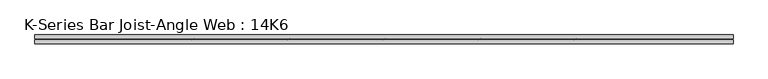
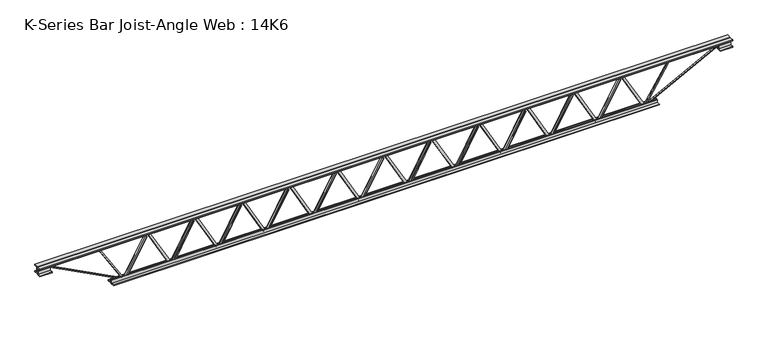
"""IFC4 building model written with IfcOpenShell, lengths in millimetres: beam geometry, K-Series Bar Joist-Angle Web : 14K6."""

from ifc_helpers import new_model, si_unit, frame, origin, place, context, project, spatial, polyline, outline, extrude, faceted_brep, source, transform, mapped, element, save


def k_series_bar_joist_angle_web_14k6_a55206d5(model_context):
    return source(origin(), model_context, "Body", "SolidModel", [
        extrude(outline(polyline([(-4.7625, 4.7625), (-4.7625, 0.0), (-17.4625, 0.0), (-17.4625, 4.7625), (-4.7625, 4.7625)])), frame((1736.3712991, 0.0, -139.7), z_axis=(-0.48619410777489, 0.0, 0.8738508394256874), x_axis=(0.0, -1.0, 0.0)), (0.0, 0.0, 1.0), 319.7342011),
        extrude(outline(polyline([(-174.625, 1767.7534091), (-155.575, 1767.7534091), (-155.575, 1767.0039085), (174.625, 1583.2868631), (174.625, 1564.9863636), (155.575, 1564.9863636), (155.575, 1572.0858642), (-174.625, 1755.8029097), (-174.625, 1767.7534091)])), frame((0.0, 0.0, 0.0), z_axis=(0.0, 1.0, 0.0), x_axis=(0.0, 0.0, 1.0)), (0.0, 0.0, 1.0), 4.7625),
        faceted_brep([(1374.9193182, 0.0, -155.575), (1374.9193182, 0.0, -174.625), (1374.9193182, -4.7625, -174.625), (1374.9193182, -4.7625, -155.575), (1375.6688188, 0.0, -155.575), (1559.3858642, 0.0, 174.625), (1577.6863636, 0.0, 174.625), (1577.6863636, 0.0, 155.575), (1570.5868631, 0.0, 155.575), (1386.8698176, 0.0, -174.625), (1386.8698176, -4.7625, -174.625), (1406.3014282, -4.7625, -139.7), (1402.1397136, -4.7625, -137.3845006), (1557.5925982, -4.7625, 142.0154994), (1561.7543128, -4.7625, 139.7), (1570.5868631, -4.7625, 155.575), (1577.6863636, -4.7625, 155.575), (1577.6863636, -4.7625, 174.625), (1559.3858642, -4.7625, 174.625), (1375.6688188, -4.7625, -155.575), (1561.7543128, -17.4625, 139.7), (1406.3014282, -17.4625, -139.7), (1402.1397136, -17.4625, -137.3845006), (1557.5925982, -17.4625, 142.0154994)], [[[0, 1, 2, 3]], [[1, 0, 4, 5, 6, 7, 8, 9]], [[2, 1, 9, 10]], [[3, 2, 10, 11, 12, 13, 14, 15, 16, 17, 18, 19]], [[0, 3, 19, 4]], [[9, 8, 15, 14, 20, 21, 11, 10]], [[5, 4, 19, 18]], [[7, 6, 17, 16]], [[8, 7, 16, 15]], [[6, 5, 18, 17]], [[21, 22, 12, 11]], [[20, 14, 13, 23]], [[22, 21, 20, 23]], [[12, 22, 23, 13]]]),
        extrude(outline(polyline([(-4.7625, 4.7625), (-4.7625, 0.0), (-17.4625, 0.0), (-17.4625, 4.7625), (-4.7625, 4.7625)])), frame((1343.5372082, 0.0, -139.7), z_axis=(-0.48619410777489, 0.0, 0.8738508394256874), x_axis=(0.0, -1.0, 0.0)), (0.0, 0.0, 1.0), 319.7342011),
        extrude(outline(polyline([(-174.625, 1374.9193182), (-155.575, 1374.9193182), (-155.575, 1374.1698176), (174.625, 1190.4527722), (174.625, 1172.1522727), (155.575, 1172.1522727), (155.575, 1179.2517733), (-174.625, 1362.9688188), (-174.625, 1374.9193182)])), frame((0.0, 0.0, 0.0), z_axis=(0.0, 1.0, 0.0), x_axis=(0.0, 0.0, 1.0)), (0.0, 0.0, 1.0), 4.7625),
        faceted_brep([(982.0852273, 0.0, -155.575), (982.0852273, 0.0, -174.625), (982.0852273, -4.7625, -174.625), (982.0852273, -4.7625, -155.575), (982.8347278, 0.0, -155.575), (1166.5517733, 0.0, 174.625), (1184.8522727, 0.0, 174.625), (1184.8522727, 0.0, 155.575), (1177.7527722, 0.0, 155.575), (994.0357267, 0.0, -174.625), (994.0357267, -4.7625, -174.625), (1013.4673373, -4.7625, -139.7), (1009.3056227, -4.7625, -137.3845006), (1164.7585073, -4.7625, 142.0154994), (1168.9202219, -4.7625, 139.7), (1177.7527722, -4.7625, 155.575), (1184.8522727, -4.7625, 155.575), (1184.8522727, -4.7625, 174.625), (1166.5517733, -4.7625, 174.625), (982.8347278, -4.7625, -155.575), (1168.9202219, -17.4625, 139.7), (1013.4673373, -17.4625, -139.7), (1009.3056227, -17.4625, -137.3845006), (1164.7585073, -17.4625, 142.0154994)], [[[0, 1, 2, 3]], [[1, 0, 4, 5, 6, 7, 8, 9]], [[2, 1, 9, 10]], [[3, 2, 10, 11, 12, 13, 14, 15, 16, 17, 18, 19]], [[0, 3, 19, 4]], [[9, 8, 15, 14, 20, 21, 11, 10]], [[5, 4, 19, 18]], [[7, 6, 17, 16]], [[8, 7, 16, 15]], [[6, 5, 18, 17]], [[21, 22, 12, 11]], [[20, 14, 13, 23]], [[22, 21, 20, 23]], [[12, 22, 23, 13]]]),
        extrude(outline(polyline([(-4.7625, 4.7625), (-4.7625, 0.0), (-17.4625, 0.0), (-17.4625, 4.7625), (-4.7625, 4.7625)])), frame((950.7031173, 0.0, -139.7), z_axis=(-0.48619410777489, 0.0, 0.8738508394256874), x_axis=(0.0, -1.0, 0.0)), (0.0, 0.0, 1.0), 319.7342011),
        extrude(outline(polyline([(-174.625, 982.0852273), (-155.575, 982.0852273), (-155.575, 981.3357267), (174.625, 797.6186812), (174.625, 779.3181818), (155.575, 779.3181818), (155.575, 786.4176824), (-174.625, 970.1347278), (-174.625, 982.0852273)])), frame((0.0, 0.0, 0.0), z_axis=(0.0, 1.0, 0.0), x_axis=(0.0, 0.0, 1.0)), (0.0, 0.0, 1.0), 4.7625),
        faceted_brep([(589.2511364, 0.0, -155.575), (589.2511364, 0.0, -174.625), (589.2511364, -4.7625, -174.625), (589.2511364, -4.7625, -155.575), (590.0006369, 0.0, -155.575), (773.7176824, 0.0, 174.625), (792.0181818, 0.0, 174.625), (792.0181818, 0.0, 155.575), (784.9186812, 0.0, 155.575), (601.2016358, 0.0, -174.625), (601.2016358, -4.7625, -174.625), (620.6332464, -4.7625, -139.7), (616.4715317, -4.7625, -137.3845006), (771.9244164, -4.7625, 142.0154994), (776.086131, -4.7625, 139.7), (784.9186812, -4.7625, 155.575), (792.0181818, -4.7625, 155.575), (792.0181818, -4.7625, 174.625), (773.7176824, -4.7625, 174.625), (590.0006369, -4.7625, -155.575), (776.086131, -17.4625, 139.7), (620.6332464, -17.4625, -139.7), (616.4715317, -17.4625, -137.3845006), (771.9244164, -17.4625, 142.0154994)], [[[0, 1, 2, 3]], [[1, 0, 4, 5, 6, 7, 8, 9]], [[2, 1, 9, 10]], [[3, 2, 10, 11, 12, 13, 14, 15, 16, 17, 18, 19]], [[0, 3, 19, 4]], [[9, 8, 15, 14, 20, 21, 11, 10]], [[5, 4, 19, 18]], [[7, 6, 17, 16]], [[8, 7, 16, 15]], [[6, 5, 18, 17]], [[21, 22, 12, 11]], [[20, 14, 13, 23]], [[22, 21, 20, 23]], [[12, 22, 23, 13]]]),
        extrude(outline(polyline([(-4.7625, 4.7625), (-4.7625, 0.0), (-17.4625, 0.0), (-17.4625, 4.7625), (-4.7625, 4.7625)])), frame((557.8690264, 0.0, -139.7), z_axis=(-0.48619410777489, 0.0, 0.8738508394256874), x_axis=(0.0, -1.0, 0.0)), (0.0, 0.0, 1.0), 319.7342011),
        extrude(outline(polyline([(-174.625, 589.2511364), (-155.575, 589.2511364), (-155.575, 588.5016358), (174.625, 404.7845903), (174.625, 386.4840909), (155.575, 386.4840909), (155.575, 393.5835915), (-174.625, 577.3006369), (-174.625, 589.2511364)])), frame((0.0, 0.0, 0.0), z_axis=(0.0, 1.0, 0.0), x_axis=(0.0, 0.0, 1.0)), (0.0, 0.0, 1.0), 4.7625),
        faceted_brep([(196.4170455, 0.0, -155.575), (196.4170455, 0.0, -174.625), (196.4170455, -4.7625, -174.625), (196.4170455, -4.7625, -155.575), (197.166546, 0.0, -155.575), (380.8835915, 0.0, 174.625), (399.1840909, 0.0, 174.625), (399.1840909, 0.0, 155.575), (392.0845903, 0.0, 155.575), (208.3675449, 0.0, -174.625), (208.3675449, -4.7625, -174.625), (227.7991555, -4.7625, -139.7), (223.6374408, -4.7625, -137.3845006), (379.0903254, -4.7625, 142.0154994), (383.2520401, -4.7625, 139.7), (392.0845903, -4.7625, 155.575), (399.1840909, -4.7625, 155.575), (399.1840909, -4.7625, 174.625), (380.8835915, -4.7625, 174.625), (197.166546, -4.7625, -155.575), (383.2520401, -17.4625, 139.7), (227.7991555, -17.4625, -139.7), (223.6374408, -17.4625, -137.3845006), (379.0903254, -17.4625, 142.0154994)], [[[0, 1, 2, 3]], [[1, 0, 4, 5, 6, 7, 8, 9]], [[2, 1, 9, 10]], [[3, 2, 10, 11, 12, 13, 14, 15, 16, 17, 18, 19]], [[0, 3, 19, 4]], [[9, 8, 15, 14, 20, 21, 11, 10]], [[5, 4, 19, 18]], [[7, 6, 17, 16]], [[8, 7, 16, 15]], [[6, 5, 18, 17]], [[21, 22, 12, 11]], [[20, 14, 13, 23]], [[22, 21, 20, 23]], [[12, 22, 23, 13]]]),
        extrude(outline(polyline([(-4.7625, 4.7625), (-4.7625, 0.0), (-17.4625, 0.0), (-17.4625, 4.7625), (-4.7625, 4.7625)])), frame((165.0349355, 0.0, -139.7), z_axis=(-0.48619410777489, 0.0, 0.8738508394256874), x_axis=(0.0, -1.0, 0.0)), (0.0, 0.0, 1.0), 319.7342011),
        extrude(outline(polyline([(-174.625, 196.4170455), (-155.575, 196.4170455), (-155.575, 195.6675449), (174.625, 11.9504994), (174.625, -6.35), (155.575, -6.35), (155.575, 0.7495006), (-174.625, 184.466546), (-174.625, 196.4170455)])), frame((0.0, 0.0, 0.0), z_axis=(0.0, 1.0, 0.0), x_axis=(0.0, 0.0, 1.0)), (0.0, 0.0, 1.0), 4.7625),
        faceted_brep([(-196.4170455, 0.0, -155.575), (-196.4170455, 0.0, -174.625), (-196.4170455, -4.7625, -174.625), (-196.4170455, -4.7625, -155.575), (-195.6675449, 0.0, -155.575), (-11.9504994, 0.0, 174.625), (6.35, 0.0, 174.625), (6.35, 0.0, 155.575), (-0.7495006, 0.0, 155.575), (-184.466546, 0.0, -174.625), (-184.466546, -4.7625, -174.625), (-165.0349355, -4.7625, -139.7), (-169.1966501, -4.7625, -137.3845006), (-13.7437655, -4.7625, 142.0154994), (-9.5820508, -4.7625, 139.7), (-0.7495006, -4.7625, 155.575), (6.35, -4.7625, 155.575), (6.35, -4.7625, 174.625), (-11.9504994, -4.7625, 174.625), (-195.6675449, -4.7625, -155.575), (-9.5820508, -17.4625, 139.7), (-165.0349355, -17.4625, -139.7), (-169.1966501, -17.4625, -137.3845006), (-13.7437655, -17.4625, 142.0154994)], [[[0, 1, 2, 3]], [[1, 0, 4, 5, 6, 7, 8, 9]], [[2, 1, 9, 10]], [[3, 2, 10, 11, 12, 13, 14, 15, 16, 17, 18, 19]], [[0, 3, 19, 4]], [[9, 8, 15, 14, 20, 21, 11, 10]], [[5, 4, 19, 18]], [[7, 6, 17, 16]], [[8, 7, 16, 15]], [[6, 5, 18, 17]], [[21, 22, 12, 11]], [[20, 14, 13, 23]], [[22, 21, 20, 23]], [[12, 22, 23, 13]]]),
        extrude(outline(polyline([(-4.7625, 4.7625), (-4.7625, 0.0), (-17.4625, 0.0), (-17.4625, 4.7625), (-4.7625, 4.7625)])), frame((-227.7991555, 0.0, -139.7), z_axis=(-0.48619410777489, 0.0, 0.8738508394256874), x_axis=(0.0, -1.0, 0.0)), (0.0, 0.0, 1.0), 319.7342011),
        extrude(outline(polyline([(-174.625, -196.4170455), (-155.575, -196.4170455), (-155.575, -197.166546), (174.625, -380.8835915), (174.625, -399.1840909), (155.575, -399.1840909), (155.575, -392.0845903), (-174.625, -208.3675449), (-174.625, -196.4170455)])), frame((0.0, 0.0, 0.0), z_axis=(0.0, 1.0, 0.0), x_axis=(0.0, 0.0, 1.0)), (0.0, 0.0, 1.0), 4.7625),
        faceted_brep([(-589.2511364, 0.0, -155.575), (-589.2511364, 0.0, -174.625), (-589.2511364, -4.7625, -174.625), (-589.2511364, -4.7625, -155.575), (-588.5016358, 0.0, -155.575), (-404.7845903, 0.0, 174.625), (-386.4840909, 0.0, 174.625), (-386.4840909, 0.0, 155.575), (-393.5835915, 0.0, 155.575), (-577.3006369, 0.0, -174.625), (-577.3006369, -4.7625, -174.625), (-557.8690264, -4.7625, -139.7), (-562.030741, -4.7625, -137.3845006), (-406.5778564, -4.7625, 142.0154994), (-402.4161417, -4.7625, 139.7), (-393.5835915, -4.7625, 155.575), (-386.4840909, -4.7625, 155.575), (-386.4840909, -4.7625, 174.625), (-404.7845903, -4.7625, 174.625), (-588.5016358, -4.7625, -155.575), (-402.4161417, -17.4625, 139.7), (-557.8690264, -17.4625, -139.7), (-562.030741, -17.4625, -137.3845006), (-406.5778564, -17.4625, 142.0154994)], [[[0, 1, 2, 3]], [[1, 0, 4, 5, 6, 7, 8, 9]], [[2, 1, 9, 10]], [[3, 2, 10, 11, 12, 13, 14, 15, 16, 17, 18, 19]], [[0, 3, 19, 4]], [[9, 8, 15, 14, 20, 21, 11, 10]], [[5, 4, 19, 18]], [[7, 6, 17, 16]], [[8, 7, 16, 15]], [[6, 5, 18, 17]], [[21, 22, 12, 11]], [[20, 14, 13, 23]], [[22, 21, 20, 23]], [[12, 22, 23, 13]]]),
        extrude(outline(polyline([(-4.7625, 4.7625), (-4.7625, 0.0), (-17.4625, 0.0), (-17.4625, 4.7625), (-4.7625, 4.7625)])), frame((-620.6332464, 0.0, -139.7), z_axis=(-0.48619410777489, 0.0, 0.8738508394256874), x_axis=(0.0, -1.0, 0.0)), (0.0, 0.0, 1.0), 319.7342011),
        extrude(outline(polyline([(-174.625, -589.2511364), (-155.575, -589.2511364), (-155.575, -590.0006369), (174.625, -773.7176824), (174.625, -792.0181818), (155.575, -792.0181818), (155.575, -784.9186812), (-174.625, -601.2016358), (-174.625, -589.2511364)])), frame((0.0, 0.0, 0.0), z_axis=(0.0, 1.0, 0.0), x_axis=(0.0, 0.0, 1.0)), (0.0, 0.0, 1.0), 4.7625),
        faceted_brep([(-982.0852273, 0.0, -155.575), (-982.0852273, 0.0, -174.625), (-982.0852273, -4.7625, -174.625), (-982.0852273, -4.7625, -155.575), (-981.3357267, 0.0, -155.575), (-797.6186812, 0.0, 174.625), (-779.3181818, 0.0, 174.625), (-779.3181818, 0.0, 155.575), (-786.4176824, 0.0, 155.575), (-970.1347278, 0.0, -174.625), (-970.1347278, -4.7625, -174.625), (-950.7031173, -4.7625, -139.7), (-954.8648319, -4.7625, -137.3845006), (-799.4119473, -4.7625, 142.0154994), (-795.2502327, -4.7625, 139.7), (-786.4176824, -4.7625, 155.575), (-779.3181818, -4.7625, 155.575), (-779.3181818, -4.7625, 174.625), (-797.6186812, -4.7625, 174.625), (-981.3357267, -4.7625, -155.575), (-795.2502327, -17.4625, 139.7), (-950.7031173, -17.4625, -139.7), (-954.8648319, -17.4625, -137.3845006), (-799.4119473, -17.4625, 142.0154994)], [[[0, 1, 2, 3]], [[1, 0, 4, 5, 6, 7, 8, 9]], [[2, 1, 9, 10]], [[3, 2, 10, 11, 12, 13, 14, 15, 16, 17, 18, 19]], [[0, 3, 19, 4]], [[9, 8, 15, 14, 20, 21, 11, 10]], [[5, 4, 19, 18]], [[7, 6, 17, 16]], [[8, 7, 16, 15]], [[6, 5, 18, 17]], [[21, 22, 12, 11]], [[20, 14, 13, 23]], [[22, 21, 20, 23]], [[12, 22, 23, 13]]]),
        extrude(outline(polyline([(-4.7625, 4.7625), (-4.7625, 0.0), (-17.4625, 0.0), (-17.4625, 4.7625), (-4.7625, 4.7625)])), frame((-1013.4673373, 0.0, -139.7), z_axis=(-0.48619410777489, 0.0, 0.8738508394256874), x_axis=(0.0, -1.0, 0.0)), (0.0, 0.0, 1.0), 319.7342011),
        extrude(outline(polyline([(-174.625, -982.0852273), (-155.575, -982.0852273), (-155.575, -982.8347278), (174.625, -1166.5517733), (174.625, -1184.8522727), (155.575, -1184.8522727), (155.575, -1177.7527722), (-174.625, -994.0357267), (-174.625, -982.0852273)])), frame((0.0, 0.0, 0.0), z_axis=(0.0, 1.0, 0.0), x_axis=(0.0, 0.0, 1.0)), (0.0, 0.0, 1.0), 4.7625),
        faceted_brep([(-1374.9193182, 0.0, -155.575), (-1374.9193182, 0.0, -174.625), (-1374.9193182, -4.7625, -174.625), (-1374.9193182, -4.7625, -155.575), (-1374.1698176, 0.0, -155.575), (-1190.4527722, 0.0, 174.625), (-1172.1522727, 0.0, 174.625), (-1172.1522727, 0.0, 155.575), (-1179.2517733, 0.0, 155.575), (-1362.9688188, 0.0, -174.625), (-1362.9688188, -4.7625, -174.625), (-1343.5372082, -4.7625, -139.7), (-1347.6989228, -4.7625, -137.3845006), (-1192.2460382, -4.7625, 142.0154994), (-1188.0843236, -4.7625, 139.7), (-1179.2517733, -4.7625, 155.575), (-1172.1522727, -4.7625, 155.575), (-1172.1522727, -4.7625, 174.625), (-1190.4527722, -4.7625, 174.625), (-1374.1698176, -4.7625, -155.575), (-1188.0843236, -17.4625, 139.7), (-1343.5372082, -17.4625, -139.7), (-1347.6989228, -17.4625, -137.3845006), (-1192.2460382, -17.4625, 142.0154994)], [[[0, 1, 2, 3]], [[1, 0, 4, 5, 6, 7, 8, 9]], [[2, 1, 9, 10]], [[3, 2, 10, 11, 12, 13, 14, 15, 16, 17, 18, 19]], [[0, 3, 19, 4]], [[9, 8, 15, 14, 20, 21, 11, 10]], [[5, 4, 19, 18]], [[7, 6, 17, 16]], [[8, 7, 16, 15]], [[6, 5, 18, 17]], [[21, 22, 12, 11]], [[20, 14, 13, 23]], [[22, 21, 20, 23]], [[12, 22, 23, 13]]]),
        extrude(outline(polyline([(-4.7625, 4.7625), (-4.7625, 0.0), (-17.4625, 0.0), (-17.4625, 4.7625), (-4.7625, 4.7625)])), frame((-1406.3014282, 0.0, -139.7), z_axis=(-0.48619410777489, 0.0, 0.8738508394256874), x_axis=(0.0, -1.0, 0.0)), (0.0, 0.0, 1.0), 319.7342011),
        extrude(outline(polyline([(-174.625, -1374.9193182), (-155.575, -1374.9193182), (-155.575, -1375.6688188), (174.625, -1559.3858642), (174.625, -1577.6863636), (155.575, -1577.6863636), (155.575, -1570.5868631), (-174.625, -1386.8698176), (-174.625, -1374.9193182)])), frame((0.0, 0.0, 0.0), z_axis=(0.0, 1.0, 0.0), x_axis=(0.0, 0.0, 1.0)), (0.0, 0.0, 1.0), 4.7625),
        faceted_brep([(-1767.7534091, 0.0, -155.575), (-1767.7534091, 0.0, -174.625), (-1767.7534091, -4.7625, -174.625), (-1767.7534091, -4.7625, -155.575), (-1767.0039085, 0.0, -155.575), (-1583.2868631, 0.0, 174.625), (-1564.9863636, 0.0, 174.625), (-1564.9863636, 0.0, 155.575), (-1572.0858642, 0.0, 155.575), (-1755.8029097, 0.0, -174.625), (-1755.8029097, -4.7625, -174.625), (-1736.3712991, -4.7625, -139.7), (-1740.5330137, -4.7625, -137.3845006), (-1585.0801291, -4.7625, 142.0154994), (-1580.9184145, -4.7625, 139.7), (-1572.0858642, -4.7625, 155.575), (-1564.9863636, -4.7625, 155.575), (-1564.9863636, -4.7625, 174.625), (-1583.2868631, -4.7625, 174.625), (-1767.0039085, -4.7625, -155.575), (-1580.9184145, -17.4625, 139.7), (-1736.3712991, -17.4625, -139.7), (-1740.5330137, -17.4625, -137.3845006), (-1585.0801291, -17.4625, 142.0154994)], [[[0, 1, 2, 3]], [[1, 0, 4, 5, 6, 7, 8, 9]], [[2, 1, 9, 10]], [[3, 2, 10, 11, 12, 13, 14, 15, 16, 17, 18, 19]], [[0, 3, 19, 4]], [[9, 8, 15, 14, 20, 21, 11, 10]], [[5, 4, 19, 18]], [[7, 6, 17, 16]], [[8, 7, 16, 15]], [[6, 5, 18, 17]], [[21, 22, 12, 11]], [[20, 14, 13, 23]], [[22, 21, 20, 23]], [[12, 22, 23, 13]]]),
        extrude(outline(polyline([(-4.7625, 4.7625), (-4.7625, 0.0), (-17.4625, 0.0), (-17.4625, 4.7625), (-4.7625, 4.7625)])), frame((2129.20539, 0.0, -139.7), z_axis=(-0.48619410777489, 0.0, 0.8738508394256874), x_axis=(0.0, -1.0, 0.0)), (0.0, 0.0, 1.0), 319.7342011),
        extrude(outline(polyline([(-174.625, 2160.5875), (-155.575, 2160.5875), (-155.575, 2159.8379994), (174.625, 1976.120954), (174.625, 1957.8204545), (155.575, 1957.8204545), (155.575, 1964.9199551), (-174.625, 2148.6370006), (-174.625, 2160.5875)])), frame((0.0, 0.0, 0.0), z_axis=(0.0, 1.0, 0.0), x_axis=(0.0, 0.0, 1.0)), (0.0, 0.0, 1.0), 4.7625),
        faceted_brep([(1767.7534091, 0.0, -155.575), (1767.7534091, 0.0, -174.625), (1767.7534091, -4.7625, -174.625), (1767.7534091, -4.7625, -155.575), (1768.5029097, 0.0, -155.575), (1952.2199551, 0.0, 174.625), (1970.5204545, 0.0, 174.625), (1970.5204545, 0.0, 155.575), (1963.420954, 0.0, 155.575), (1779.7039085, 0.0, -174.625), (1779.7039085, -4.7625, -174.625), (1799.1355191, -4.7625, -139.7), (1794.9738045, -4.7625, -137.3845006), (1950.4266891, -4.7625, 142.0154994), (1954.5884037, -4.7625, 139.7), (1963.420954, -4.7625, 155.575), (1970.5204545, -4.7625, 155.575), (1970.5204545, -4.7625, 174.625), (1952.2199551, -4.7625, 174.625), (1768.5029097, -4.7625, -155.575), (1954.5884037, -17.4625, 139.7), (1799.1355191, -17.4625, -139.7), (1794.9738045, -17.4625, -137.3845006), (1950.4266891, -17.4625, 142.0154994)], [[[0, 1, 2, 3]], [[1, 0, 4, 5, 6, 7, 8, 9]], [[2, 1, 9, 10]], [[3, 2, 10, 11, 12, 13, 14, 15, 16, 17, 18, 19]], [[0, 3, 19, 4]], [[9, 8, 15, 14, 20, 21, 11, 10]], [[5, 4, 19, 18]], [[7, 6, 17, 16]], [[8, 7, 16, 15]], [[6, 5, 18, 17]], [[21, 22, 12, 11]], [[20, 14, 13, 23]], [[22, 21, 20, 23]], [[12, 22, 23, 13]]]),
        extrude(outline(polyline([(-4.7625, 4.7625), (-4.7625, 0.0), (-17.4625, 0.0), (-17.4625, 4.7625), (-4.7625, 4.7625)])), frame((-1799.1355191, 0.0, -139.7), z_axis=(-0.48619410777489, 0.0, 0.8738508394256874), x_axis=(0.0, -1.0, 0.0)), (0.0, 0.0, 1.0), 319.7342011),
        extrude(outline(polyline([(-174.625, -1767.7534091), (-155.575, -1767.7534091), (-155.575, -1768.5029097), (174.625, -1952.2199551), (174.625, -1970.5204545), (155.575, -1970.5204545), (155.575, -1963.420954), (-174.625, -1779.7039085), (-174.625, -1767.7534091)])), frame((0.0, 0.0, 0.0), z_axis=(0.0, 1.0, 0.0), x_axis=(0.0, 0.0, 1.0)), (0.0, 0.0, 1.0), 4.7625),
        faceted_brep([(-2160.5875, 0.0, -155.575), (-2160.5875, 0.0, -174.625), (-2160.5875, -4.7625, -174.625), (-2160.5875, -4.7625, -155.575), (-2159.8379994, 0.0, -155.575), (-1976.120954, 0.0, 174.625), (-1957.8204545, 0.0, 174.625), (-1957.8204545, 0.0, 155.575), (-1964.9199551, 0.0, 155.575), (-2148.6370006, 0.0, -174.625), (-2148.6370006, -4.7625, -174.625), (-2129.20539, -4.7625, -139.7), (-2133.3671046, -4.7625, -137.3845006), (-1977.91422, -4.7625, 142.0154994), (-1973.7525054, -4.7625, 139.7), (-1964.9199551, -4.7625, 155.575), (-1957.8204545, -4.7625, 155.575), (-1957.8204545, -4.7625, 174.625), (-1976.120954, -4.7625, 174.625), (-2159.8379994, -4.7625, -155.575), (-1973.7525054, -17.4625, 139.7), (-2129.20539, -17.4625, -139.7), (-2133.3671046, -17.4625, -137.3845006), (-1977.91422, -17.4625, 142.0154994)], [[[0, 1, 2, 3]], [[1, 0, 4, 5, 6, 7, 8, 9]], [[2, 1, 9, 10]], [[3, 2, 10, 11, 12, 13, 14, 15, 16, 17, 18, 19]], [[0, 3, 19, 4]], [[9, 8, 15, 14, 20, 21, 11, 10]], [[5, 4, 19, 18]], [[7, 6, 17, 16]], [[8, 7, 16, 15]], [[6, 5, 18, 17]], [[21, 22, 12, 11]], [[20, 14, 13, 23]], [[22, 21, 20, 23]], [[12, 22, 23, 13]]]),
        extrude(outline(polyline([(4.7625, 177.8), (36.5125, 177.8), (36.5125, 171.45), (11.1125, 171.45), (11.1125, 146.05), (4.7625, 146.05), (4.7625, 177.8)])), frame((-2871.7875, 0.0, 0.0), z_axis=(1.0, 0.0, 0.0), x_axis=(0.0, 1.0, 0.0)), (0.0, 0.0, 1.0), 5743.575),
        extrude(outline(polyline([(-4.7625, 177.8), (-4.7625, 146.05), (-11.1125, 146.05), (-11.1125, 171.45), (-36.5125, 171.45), (-36.5125, 177.8), (-4.7625, 177.8)])), frame((-2871.7875, 0.0, 0.0), z_axis=(1.0, 0.0, 0.0), x_axis=(0.0, 1.0, 0.0)), (0.0, 0.0, 1.0), 5743.575),
        extrude(outline(polyline([(4.7625, -177.8), (4.7625, -146.05), (11.1125, -146.05), (11.1125, -171.45), (36.5125, -171.45), (36.5125, -177.8), (4.7625, -177.8)])), frame((-2262.1875, 0.0, 0.0), z_axis=(1.0, 0.0, 0.0), x_axis=(0.0, 1.0, 0.0)), (0.0, 0.0, 1.0), 4524.375),
        extrude(outline(polyline([(-4.7625, -177.8), (-36.5125, -177.8), (-36.5125, -171.45), (-11.1125, -171.45), (-11.1125, -146.05), (-4.7625, -146.05), (-4.7625, -177.8)])), frame((-2262.1875, 0.0, 0.0), z_axis=(1.0, 0.0, 0.0), x_axis=(0.0, 1.0, 0.0)), (0.0, 0.0, 1.0), 4524.375),
        extrude(outline(polyline([(4.7625, 114.3), (4.7625, 146.05), (11.1125, 146.05), (11.1125, 120.65), (36.5125, 120.65), (36.5125, 114.3), (4.7625, 114.3)])), frame((2770.1875, 0.0, 0.0), z_axis=(1.0, 0.0, 0.0), x_axis=(0.0, 1.0, 0.0)), (0.0, 0.0, 1.0), 101.6),
        extrude(outline(polyline([(-4.7625, 114.3), (-36.5125, 114.3), (-36.5125, 120.65), (-11.1125, 120.65), (-11.1125, 146.05), (-4.7625, 146.05), (-4.7625, 114.3)])), frame((2770.1875, 0.0, 0.0), z_axis=(1.0, 0.0, 0.0), x_axis=(0.0, 1.0, 0.0)), (0.0, 0.0, 1.0), 101.6),
        extrude(outline(polyline([(-4.7625, 114.3), (-36.5125, 114.3), (-36.5125, 120.65), (-11.1125, 120.65), (-11.1125, 146.05), (-4.7625, 146.05), (-4.7625, 114.3)])), frame((-2871.7875, 0.0, 0.0), z_axis=(1.0, 0.0, 0.0), x_axis=(0.0, 1.0, 0.0)), (0.0, 0.0, 1.0), 101.6),
        extrude(outline(polyline([(36.5125, 114.3), (4.7625, 114.3), (4.7625, 146.05), (11.1125, 146.05), (11.1125, 120.65), (36.5125, 120.65), (36.5125, 114.3)])), frame((-2871.7875, 0.0, 0.0), z_axis=(1.0, 0.0, 0.0), x_axis=(0.0, 1.0, 0.0)), (0.0, 0.0, 1.0), 101.6),
        extrude(outline(polyline([(4.7625, 4.7625), (4.7625, -4.7625), (-4.7625, -4.7625), (-4.7625, 4.7625), (4.7625, 4.7625)])), frame((-2160.5875, 0.0, -171.45), z_axis=(-0.5261017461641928, 0.0, 0.8504216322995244), x_axis=(0.0, -1.0, 0.0)), (0.0, 0.0, 1.0), 373.3442188),
        extrude(outline(polyline([(4.7625, 4.7625), (4.7625, -4.7625), (-4.7625, -4.7625), (-4.7625, 4.7625), (4.7625, 4.7625)])), frame((2160.5875, 0.0, -171.45), z_axis=(0.5261017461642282, 0.0, 0.8504216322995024), x_axis=(0.0, -1.0, 0.0)), (0.0, 0.0, 1.0), 373.3442188),
        extrude(outline(polyline([(0.0, -9.525), (0.0, 0.0), (687.3270037, 0.0), (687.3270037, -9.525), (0.0, -9.525)])), frame((-2772.3874627, 4.7625, 141.8260717), z_axis=(0.4619344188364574, 0.0, 0.8869140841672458), x_axis=(0.8869140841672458, 0.0, -0.4619344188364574)), (0.0, 0.0, 1.0), 9.525),
        extrude(outline(polyline([(0.0, -9.525), (0.0, 0.0), (687.3270037, 0.0), (687.3270037, -9.525), (0.0, -9.525)])), frame((2772.3874627, -4.7625, 141.8260717), z_axis=(-0.4619344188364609, 0.0, 0.886914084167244), x_axis=(-0.886914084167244, 0.0, -0.4619344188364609)), (0.0, 0.0, 1.0), 9.525),
    ])


if __name__ == "__main__":
    model = new_model("IFC4")
    model_context = context("Model", 3, world=origin())
    ifc_project = project(units=[si_unit("LENGTHUNIT", "METRE", prefix="MILLI")], contexts=[model_context])
    site = spatial("IfcSite", under=ifc_project)
    building = spatial("IfcBuilding", under=site)
    placement = place(None, origin())
    k_series_bar_joist_angle_web_14k6_shape = k_series_bar_joist_angle_web_14k6_a55206d5(model_context)
    element("IfcBeam", 1, ObjectType="K-Series Bar Joist-Angle Web : 14K6", at=placement, inside=building, context=model_context, shape_type="MappedRepresentation", body=[
        mapped(k_series_bar_joist_angle_web_14k6_shape, transform((0.0, 0.0, 0.0), x_axis=(1.0, 0.0, 0.0), y_axis=(0.0, 1.0, 0.0), z_axis=(0.0, 0.0, 1.0))),
    ])
    save(model, "model.ifc")
